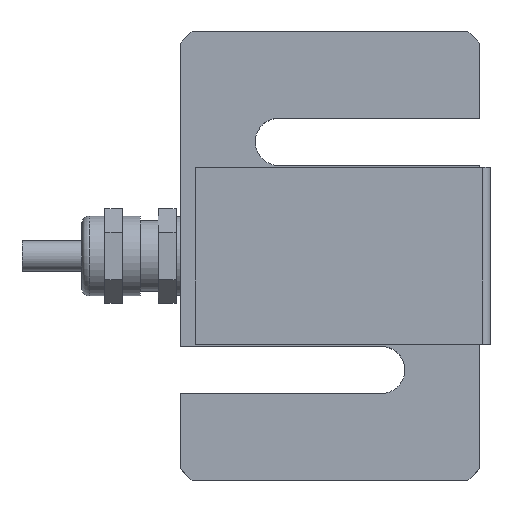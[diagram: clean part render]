
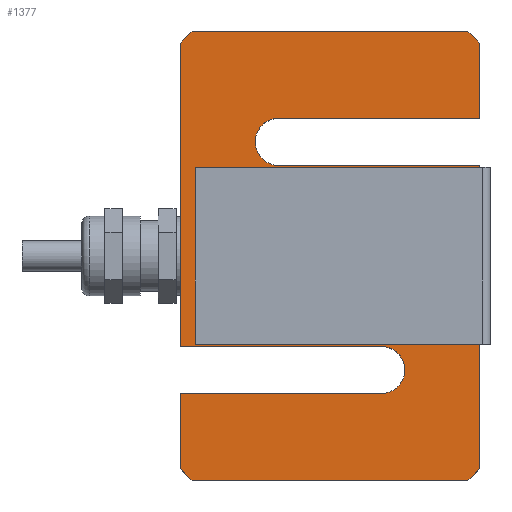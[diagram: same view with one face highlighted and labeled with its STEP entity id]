
A CAD part, top view. The second image highlights one B-rep face of the part: STEP entity #1377.
In plain terms, the highlighted planar face has unit normal (0, 0, 1).
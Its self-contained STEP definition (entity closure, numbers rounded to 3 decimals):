
#22=FACE_BOUND('',#201,.T.);
#42=PLANE('',#1530);
#119=FACE_OUTER_BOUND('',#200,.T.);
#200=EDGE_LOOP('',(#1095,#1096,#1097,#1098,#1099,#1100,#1101,#1102,#1103,
#1104,#1105,#1106,#1107,#1108,#1109,#1110));
#201=EDGE_LOOP('',(#1111,#1112));
#271=LINE('',#2174,#400);
#277=LINE('',#2185,#406);
#281=LINE('',#2197,#410);
#284=LINE('',#2203,#413);
#287=LINE('',#2211,#416);
#289=LINE('',#2216,#418);
#298=LINE('',#2232,#427);
#301=LINE('',#2238,#430);
#304=LINE('',#2244,#433);
#305=LINE('',#2248,#434);
#309=LINE('',#2255,#438);
#310=LINE('',#2256,#439);
#311=LINE('',#2257,#440);
#312=LINE('',#2258,#441);
#400=VECTOR('',#1766,1000.);
#406=VECTOR('',#1774,1000.);
#410=VECTOR('',#1786,1000.);
#413=VECTOR('',#1791,1000.);
#416=VECTOR('',#1796,1000.);
#418=VECTOR('',#1800,1000.);
#427=VECTOR('',#1811,1000.);
#430=VECTOR('',#1816,1000.);
#433=VECTOR('',#1821,1000.);
#434=VECTOR('',#1824,1000.);
#438=VECTOR('',#1830,1000.);
#439=VECTOR('',#1831,1000.);
#440=VECTOR('',#1832,1000.);
#441=VECTOR('',#1833,1000.);
#571=CIRCLE('',#1511,14.7);
#572=CIRCLE('',#1512,14.7);
#573=CIRCLE('',#1514,4.);
#576=CIRCLE('',#1521,4.);
#637=VERTEX_POINT('',#2144);
#638=VERTEX_POINT('',#2146);
#639=VERTEX_POINT('',#2150);
#640=VERTEX_POINT('',#2151);
#649=VERTEX_POINT('',#2172);
#650=VERTEX_POINT('',#2173);
#654=VERTEX_POINT('',#2183);
#656=VERTEX_POINT('',#2189);
#658=VERTEX_POINT('',#2195);
#660=VERTEX_POINT('',#2201);
#663=VERTEX_POINT('',#2208);
#664=VERTEX_POINT('',#2210);
#665=VERTEX_POINT('',#2214);
#666=VERTEX_POINT('',#2215);
#674=VERTEX_POINT('',#2236);
#676=VERTEX_POINT('',#2242);
#677=VERTEX_POINT('',#2246);
#678=VERTEX_POINT('',#2247);
#795=EDGE_CURVE('',#637,#638,#571,.T.);
#796=EDGE_CURVE('',#638,#637,#572,.T.);
#797=EDGE_CURVE('',#639,#640,#573,.T.);
#807=EDGE_CURVE('',#649,#650,#271,.T.);
#813=EDGE_CURVE('',#650,#654,#277,.T.);
#816=EDGE_CURVE('',#654,#656,#576,.T.);
#819=EDGE_CURVE('',#656,#658,#281,.T.);
#822=EDGE_CURVE('',#658,#660,#284,.T.);
#825=EDGE_CURVE('',#664,#663,#287,.T.);
#827=EDGE_CURVE('',#665,#666,#289,.T.);
#836=EDGE_CURVE('',#666,#639,#298,.T.);
#839=EDGE_CURVE('',#640,#674,#301,.T.);
#842=EDGE_CURVE('',#674,#676,#304,.T.);
#843=EDGE_CURVE('',#677,#678,#305,.T.);
#847=EDGE_CURVE('',#663,#665,#309,.T.);
#848=EDGE_CURVE('',#676,#677,#310,.T.);
#849=EDGE_CURVE('',#678,#649,#311,.T.);
#850=EDGE_CURVE('',#660,#664,#312,.T.);
#1095=ORIENTED_EDGE('',*,*,#825,.T.);
#1096=ORIENTED_EDGE('',*,*,#847,.T.);
#1097=ORIENTED_EDGE('',*,*,#827,.T.);
#1098=ORIENTED_EDGE('',*,*,#836,.T.);
#1099=ORIENTED_EDGE('',*,*,#797,.T.);
#1100=ORIENTED_EDGE('',*,*,#839,.T.);
#1101=ORIENTED_EDGE('',*,*,#842,.T.);
#1102=ORIENTED_EDGE('',*,*,#848,.T.);
#1103=ORIENTED_EDGE('',*,*,#843,.T.);
#1104=ORIENTED_EDGE('',*,*,#849,.T.);
#1105=ORIENTED_EDGE('',*,*,#807,.T.);
#1106=ORIENTED_EDGE('',*,*,#813,.T.);
#1107=ORIENTED_EDGE('',*,*,#816,.T.);
#1108=ORIENTED_EDGE('',*,*,#819,.T.);
#1109=ORIENTED_EDGE('',*,*,#822,.T.);
#1110=ORIENTED_EDGE('',*,*,#850,.T.);
#1111=ORIENTED_EDGE('',*,*,#796,.F.);
#1112=ORIENTED_EDGE('',*,*,#795,.F.);
#1377=ADVANCED_FACE('',(#119,#22),#42,.T.);
#1511=AXIS2_PLACEMENT_3D('',#2147,#1744,#1745);
#1512=AXIS2_PLACEMENT_3D('',#2148,#1746,#1747);
#1514=AXIS2_PLACEMENT_3D('',#2152,#1750,#1751);
#1521=AXIS2_PLACEMENT_3D('',#2191,#1780,#1781);
#1530=AXIS2_PLACEMENT_3D('',#2254,#1828,#1829);
#1744=DIRECTION('center_axis',(0.,0.,1.));
#1745=DIRECTION('ref_axis',(1.,0.,0.));
#1746=DIRECTION('center_axis',(0.,0.,1.));
#1747=DIRECTION('ref_axis',(1.,0.,0.));
#1750=DIRECTION('center_axis',(0.,0.,-1.));
#1751=DIRECTION('ref_axis',(1.,0.,0.));
#1766=DIRECTION('',(0.,-1.,0.));
#1774=DIRECTION('',(1.,0.,0.));
#1780=DIRECTION('center_axis',(0.,0.,-1.));
#1781=DIRECTION('ref_axis',(1.,0.,0.));
#1786=DIRECTION('',(-1.,0.,0.));
#1791=DIRECTION('',(0.,-1.,0.));
#1796=DIRECTION('',(1.,0.,0.));
#1800=DIRECTION('',(0.,1.,0.));
#1811=DIRECTION('',(-1.,0.,0.));
#1816=DIRECTION('',(1.,0.,0.));
#1821=DIRECTION('',(0.,1.,0.));
#1824=DIRECTION('',(-1.,0.,0.));
#1828=DIRECTION('center_axis',(0.,0.,1.));
#1829=DIRECTION('ref_axis',(1.,0.,0.));
#1830=DIRECTION('',(0.707,0.707,0.));
#1831=DIRECTION('',(-0.707,0.707,0.));
#1832=DIRECTION('',(-0.707,-0.707,0.));
#1833=DIRECTION('',(0.707,-0.707,0.));
#2144=CARTESIAN_POINT('',(-14.7,0.,9.5));
#2146=CARTESIAN_POINT('',(14.7,0.,9.5));
#2147=CARTESIAN_POINT('Origin',(0.,0.,9.5));
#2148=CARTESIAN_POINT('Origin',(0.,0.,9.5));
#2150=CARTESIAN_POINT('',(-8.7,15.35,9.5));
#2151=CARTESIAN_POINT('',(-8.7,23.35,9.5));
#2152=CARTESIAN_POINT('Origin',(-8.7,19.35,9.5));
#2172=CARTESIAN_POINT('',(-25.4,36.1,9.5));
#2173=CARTESIAN_POINT('',(-25.4,-15.35,9.5));
#2174=CARTESIAN_POINT('',(-25.4,38.1,9.5));
#2183=CARTESIAN_POINT('',(8.7,-15.35,9.5));
#2185=CARTESIAN_POINT('',(-25.4,-15.35,9.5));
#2189=CARTESIAN_POINT('',(8.7,-23.35,9.5));
#2191=CARTESIAN_POINT('Origin',(8.7,-19.35,9.5));
#2195=CARTESIAN_POINT('',(-25.4,-23.35,9.5));
#2197=CARTESIAN_POINT('',(8.7,-23.35,9.5));
#2201=CARTESIAN_POINT('',(-25.4,-36.1,9.5));
#2203=CARTESIAN_POINT('',(-25.4,-23.35,9.5));
#2208=CARTESIAN_POINT('',(23.4,-38.1,9.5));
#2210=CARTESIAN_POINT('',(-23.4,-38.1,9.5));
#2211=CARTESIAN_POINT('',(-25.4,-38.1,9.5));
#2214=CARTESIAN_POINT('',(25.4,-36.1,9.5));
#2215=CARTESIAN_POINT('',(25.4,15.35,9.5));
#2216=CARTESIAN_POINT('',(25.4,-38.1,9.5));
#2232=CARTESIAN_POINT('',(25.4,15.35,9.5));
#2236=CARTESIAN_POINT('',(25.4,23.35,9.5));
#2238=CARTESIAN_POINT('',(-8.7,23.35,9.5));
#2242=CARTESIAN_POINT('',(25.4,36.1,9.5));
#2244=CARTESIAN_POINT('',(25.4,23.35,9.5));
#2246=CARTESIAN_POINT('',(23.4,38.1,9.5));
#2247=CARTESIAN_POINT('',(-23.4,38.1,9.5));
#2248=CARTESIAN_POINT('',(25.4,38.1,9.5));
#2254=CARTESIAN_POINT('Origin',(8.7,-19.35,9.5));
#2255=CARTESIAN_POINT('',(25.425,-36.075,9.5));
#2256=CARTESIAN_POINT('',(44.775,16.725,9.5));
#2257=CARTESIAN_POINT('',(-36.075,25.425,9.5));
#2258=CARTESIAN_POINT('',(-16.725,-44.775,9.5));
